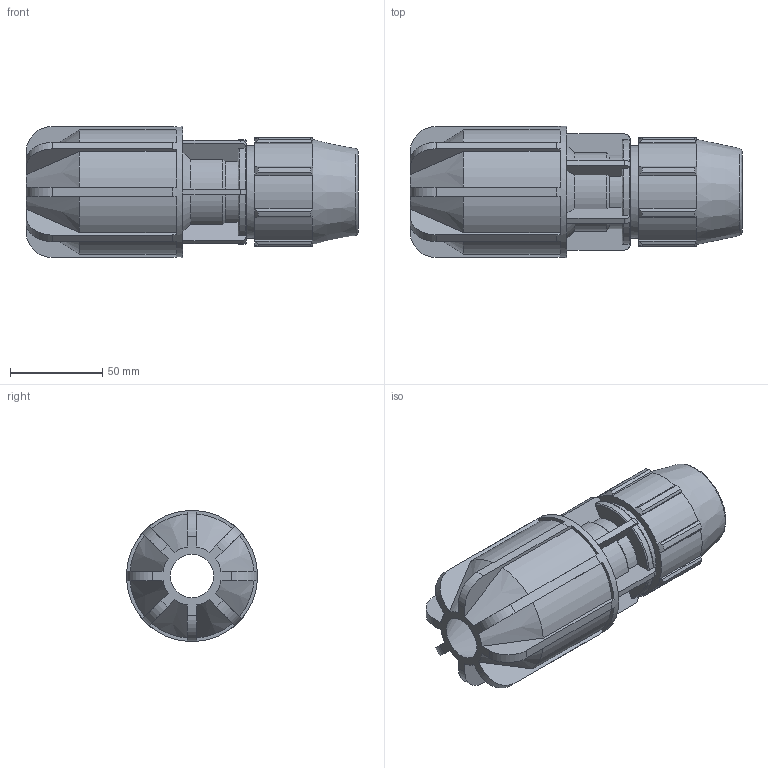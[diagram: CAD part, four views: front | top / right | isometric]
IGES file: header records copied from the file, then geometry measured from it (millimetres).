
Global section: file name: 070170M10027.ipt; native system: Autodesk Inventor 2019; preprocessor: unknown; author: KIM; date: 20210826.124335; units: inch
Bounding box: 180.09 x 71.12 x 71.12 mm (x, y, z)
Volume: 312831.8 mm3; surface area: 72044 mm2
Topology: 1 solids, 1 shells, 244 faces, 708 edges, 471 vertices
Faces by surface type: plane 135, cylinder 58, cone 30, revolution 21
Full cylindrical faces by diameter (mm): 50.394 x1, 71.12 x1
